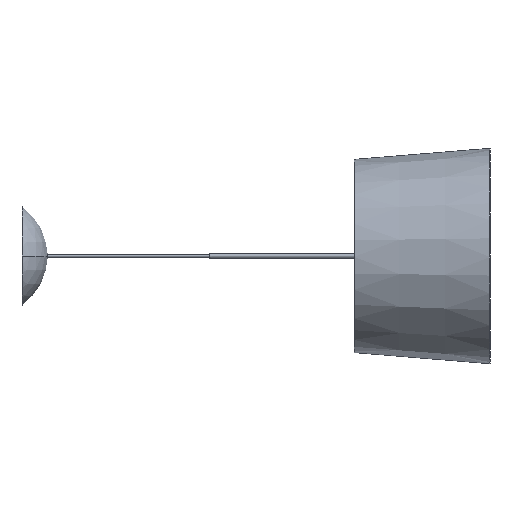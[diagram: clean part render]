
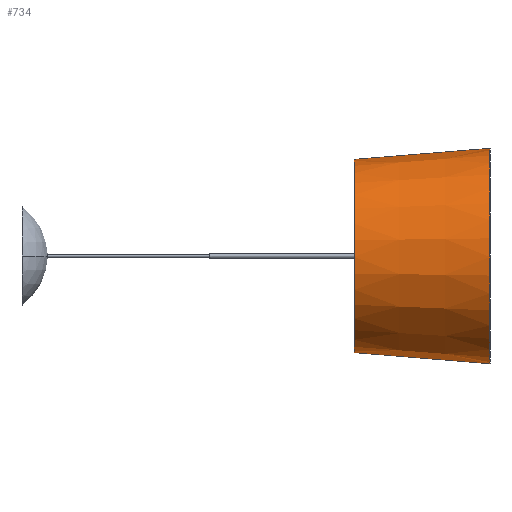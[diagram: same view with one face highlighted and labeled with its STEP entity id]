
A CAD part, left-side view. The second image highlights one B-rep face of the part: STEP entity #734.
In plain terms, the highlighted conical face has half-angle 4.65 degrees and reference radius 230 mm.
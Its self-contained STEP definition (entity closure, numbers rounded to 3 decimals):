
#27 = EDGE_LOOP ( 'NONE', ( #1052, #340, #477, #1231 ) ) ;
#104 = DIRECTION ( 'NONE',  ( 0., 0., -1. ) ) ;
#131 = DIRECTION ( 'NONE',  ( 0., 0., -1. ) ) ;
#137 = DIRECTION ( 'NONE',  ( 0.001, 0.997, -0.081 ) ) ;
#138 = DIRECTION ( 'NONE',  ( 0., -1., 0. ) ) ;
#213 = EDGE_CURVE ( 'NONE', #518, #1004, #1117, .T. ) ;
#260 = CARTESIAN_POINT ( 'NONE',  ( 0., 290., 0. ) ) ;
#304 = CARTESIAN_POINT ( 'NONE',  ( 0., 0., 0. ) ) ;
#325 = CARTESIAN_POINT ( 'NONE',  ( 0., 0., -230. ) ) ;
#340 = ORIENTED_EDGE ( 'NONE', *, *, #352, .T. ) ;
#352 = EDGE_CURVE ( 'NONE', #1041, #1355, #662, .T. ) ;
#452 = CARTESIAN_POINT ( 'NONE',  ( -3.602, 290., 206.381 ) ) ;
#477 = ORIENTED_EDGE ( 'NONE', *, *, #1067, .F. ) ;
#518 = VERTEX_POINT ( 'NONE', #1037 ) ;
#557 = DIRECTION ( 'NONE',  ( 0., -0.997, -0.081 ) ) ;
#582 = CARTESIAN_POINT ( 'NONE',  ( 0., 0., 0. ) ) ;
#662 = LINE ( 'NONE', #325, #896 ) ;
#697 = CIRCLE ( 'NONE', #1060, 230. ) ;
#698 = DIRECTION ( 'NONE',  ( 0., 0., -1. ) ) ;
#734 = ADVANCED_FACE ( 'NONE', ( #739 ), #1411, .T. ) ;
#739 = FACE_OUTER_BOUND ( 'NONE', #27, .T. ) ;
#773 = AXIS2_PLACEMENT_3D ( 'NONE', #304, #1169, #104 ) ;
#896 = VECTOR ( 'NONE', #557, 1000. ) ;
#1004 = VERTEX_POINT ( 'NONE', #1017 ) ;
#1017 = CARTESIAN_POINT ( 'NONE',  ( -3.602, 290., 206.381 ) ) ;
#1033 = EDGE_CURVE ( 'NONE', #1004, #1041, #1265, .T. ) ;
#1037 = CARTESIAN_POINT ( 'NONE',  ( -4.014, 0., 229.965 ) ) ;
#1041 = VERTEX_POINT ( 'NONE', #1118 ) ;
#1052 = ORIENTED_EDGE ( 'NONE', *, *, #1033, .T. ) ;
#1060 = AXIS2_PLACEMENT_3D ( 'NONE', #582, #1112, #131 ) ;
#1067 = EDGE_CURVE ( 'NONE', #518, #1355, #697, .T. ) ;
#1112 = DIRECTION ( 'NONE',  ( 0., -1., 0. ) ) ;
#1117 = LINE ( 'NONE', #452, #1387 ) ;
#1118 = CARTESIAN_POINT ( 'NONE',  ( 0., 290., -206.412 ) ) ;
#1169 = DIRECTION ( 'NONE',  ( 0., -1., 0. ) ) ;
#1231 = ORIENTED_EDGE ( 'NONE', *, *, #213, .T. ) ;
#1239 = CARTESIAN_POINT ( 'NONE',  ( 0., 0., -230. ) ) ;
#1265 = CIRCLE ( 'NONE', #1421, 206.412 ) ;
#1355 = VERTEX_POINT ( 'NONE', #1239 ) ;
#1387 = VECTOR ( 'NONE', #137, 1000. ) ;
#1411 = CONICAL_SURFACE ( 'NONE', #773, 230., 0.081 ) ;
#1421 = AXIS2_PLACEMENT_3D ( 'NONE', #260, #138, #698 ) ;
